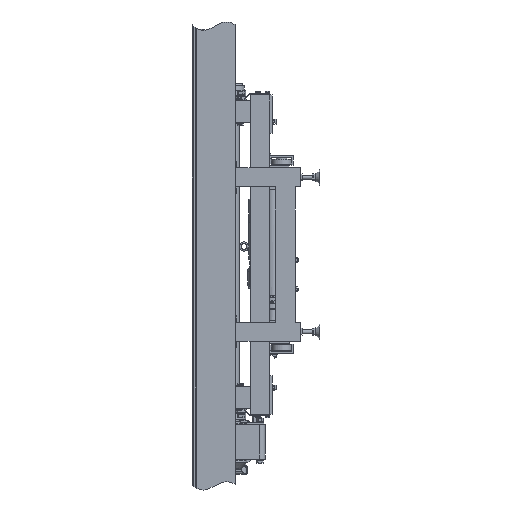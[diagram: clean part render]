
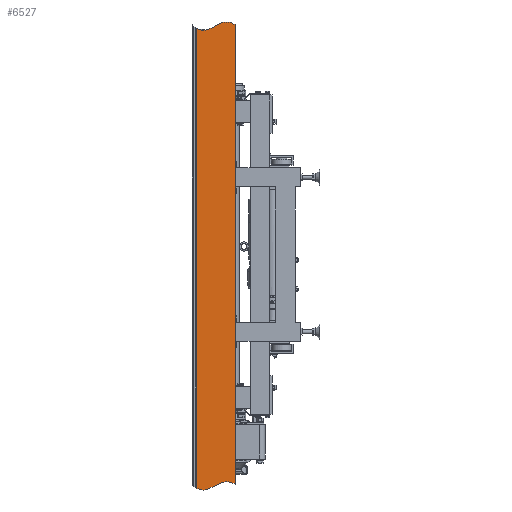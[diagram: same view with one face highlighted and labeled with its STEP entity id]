
A CAD part, left-side view. The second image highlights one B-rep face of the part: STEP entity #6527.
In plain terms, the highlighted planar face has unit normal (-1, 0, 0).
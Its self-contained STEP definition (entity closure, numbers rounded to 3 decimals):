
#6527 = ADVANCED_FACE ( 'NONE', ( #30562 ), #44277, .F. ) ;
#7864 = CARTESIAN_POINT ( 'NONE',  ( -497.5, -168.925, 900. ) ) ;
#7954 = CARTESIAN_POINT ( 'NONE',  ( -497.5, -18.925, 925. ) ) ;
#14309 = EDGE_CURVE ( 'NONE', #47359, #71633, #21033, .T. ) ;
#21033 = LINE ( 'NONE', #7954, #47404 ) ;
#23506 = B_SPLINE_CURVE_WITH_KNOTS ( 'NONE', 3,
 ( #120395, #27135, #47004, #47464 ),
 .UNSPECIFIED., .F., .F.,
 ( 4, 4 ),
 ( 0., 0.899 ),
 .UNSPECIFIED. ) ;
#25893 = CARTESIAN_POINT ( 'NONE',  ( -497.5, -18.925, -914.971 ) ) ;
#27135 = CARTESIAN_POINT ( 'NONE',  ( -497.5, -108.572, 939.768 ) ) ;
#30562 = FACE_OUTER_BOUND ( 'NONE', #39306, .T. ) ;
#37995 = EDGE_CURVE ( 'NONE', #71633, #102550, #133271, .T. ) ;
#39306 = EDGE_LOOP ( 'NONE', ( #72080, #49038, #99907, #44517 ) ) ;
#40249 = DIRECTION ( 'NONE',  ( 0., 0., -1. ) ) ;
#44277 = PLANE ( 'NONE',  #68288 ) ;
#44517 = ORIENTED_EDGE ( 'NONE', *, *, #14309, .T. ) ;
#45214 = DIRECTION ( 'NONE',  ( 1., 0., 0. ) ) ;
#47004 = CARTESIAN_POINT ( 'NONE',  ( -497.5, -72.854, 854.846 ) ) ;
#47359 = VERTEX_POINT ( 'NONE', #62170 ) ;
#47404 = VECTOR ( 'NONE', #40249, 1000. ) ;
#47464 = CARTESIAN_POINT ( 'NONE',  ( -497.5, -18.925, 885.029 ) ) ;
#49038 = ORIENTED_EDGE ( 'NONE', *, *, #108305, .F. ) ;
#54778 = CARTESIAN_POINT ( 'NONE',  ( -497.5, -168.925, -900. ) ) ;
#62170 = CARTESIAN_POINT ( 'NONE',  ( -497.5, -18.925, 885.029 ) ) ;
#66371 = DIRECTION ( 'NONE',  ( 0., 0., -1. ) ) ;
#68288 = AXIS2_PLACEMENT_3D ( 'NONE', #108027, #45214, #86290 ) ;
#70488 = CARTESIAN_POINT ( 'NONE',  ( -497.5, -18.925, -914.971 ) ) ;
#71633 = VERTEX_POINT ( 'NONE', #70488 ) ;
#72080 = ORIENTED_EDGE ( 'NONE', *, *, #37995, .T. ) ;
#72949 = VECTOR ( 'NONE', #66371, 1000. ) ;
#86290 = DIRECTION ( 'NONE',  ( 0., 1., 0. ) ) ;
#99907 = ORIENTED_EDGE ( 'NONE', *, *, #121139, .T. ) ;
#101825 = VERTEX_POINT ( 'NONE', #7864 ) ;
#102550 = VERTEX_POINT ( 'NONE', #54778 ) ;
#108027 = CARTESIAN_POINT ( 'NONE',  ( -497.5, -168.925, 925. ) ) ;
#108305 = EDGE_CURVE ( 'NONE', #101825, #102550, #111038, .T. ) ;
#110800 = CARTESIAN_POINT ( 'NONE',  ( -497.5, -108.572, -860.232 ) ) ;
#111038 = LINE ( 'NONE', #129598, #72949 ) ;
#120395 = CARTESIAN_POINT ( 'NONE',  ( -497.5, -168.925, 900. ) ) ;
#120946 = CARTESIAN_POINT ( 'NONE',  ( -497.5, -168.925, -900. ) ) ;
#121139 = EDGE_CURVE ( 'NONE', #101825, #47359, #23506, .T. ) ;
#121850 = CARTESIAN_POINT ( 'NONE',  ( -497.5, -72.854, -945.154 ) ) ;
#129598 = CARTESIAN_POINT ( 'NONE',  ( -497.5, -168.925, 925. ) ) ;
#133271 = B_SPLINE_CURVE_WITH_KNOTS ( 'NONE', 3,
 ( #25893, #121850, #110800, #120946 ),
 .UNSPECIFIED., .F., .F.,
 ( 4, 4 ),
 ( 0.101, 1. ),
 .UNSPECIFIED. ) ;
